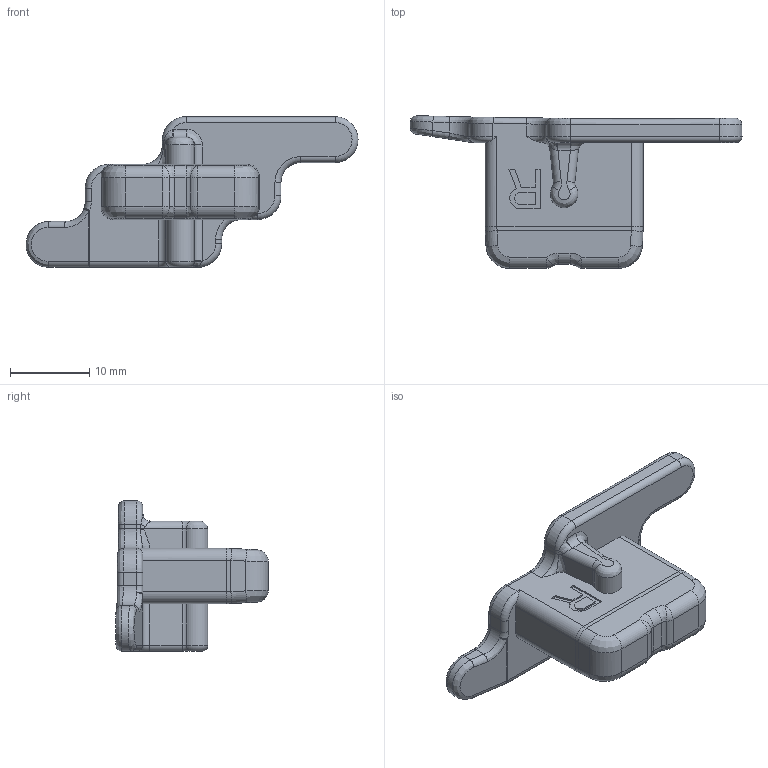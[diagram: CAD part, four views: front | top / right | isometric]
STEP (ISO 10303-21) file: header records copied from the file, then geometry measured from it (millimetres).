
FILE_DESCRIPTION((''),'2;1');
FILE_NAME('P1344','2012-04-24T',('jas'),(''),'PRO/ENGINEER BY PARAMETRIC TECHNOLOGY CORPORATION, 2011490','PRO/ENGINEER BY PARAMETRIC TECHNOLOGY CORPORATION, 2011490','');
FILE_SCHEMA(('AUTOMOTIVE_DESIGN { 1 0 10303 214 1 1 1 1 }'));
Length unit declared in the file: millimetre
Products named in the file (1): P1344
Bounding box: 42 x 19.32 x 19.05 mm (x, y, z)
Volume: 3720.8 mm3; surface area: 2057.5 mm2
Topology: 1 solids, 1 shells, 183 faces, 434 edges, 255 vertices
Faces by surface type: cylinder 66, plane 56, bspline 36, torus 21, sphere 4
Entity records: 8955 total; most frequent: CARTESIAN_POINT 3313, ORIENTED_EDGE 868, DIRECTION 803, PRESENTATION_STYLE_ASSIGNMENT 435, STYLED_ITEM 435, CURVE_STYLE 434, EDGE_CURVE 434, AXIS2_PLACEMENT_3D 298
